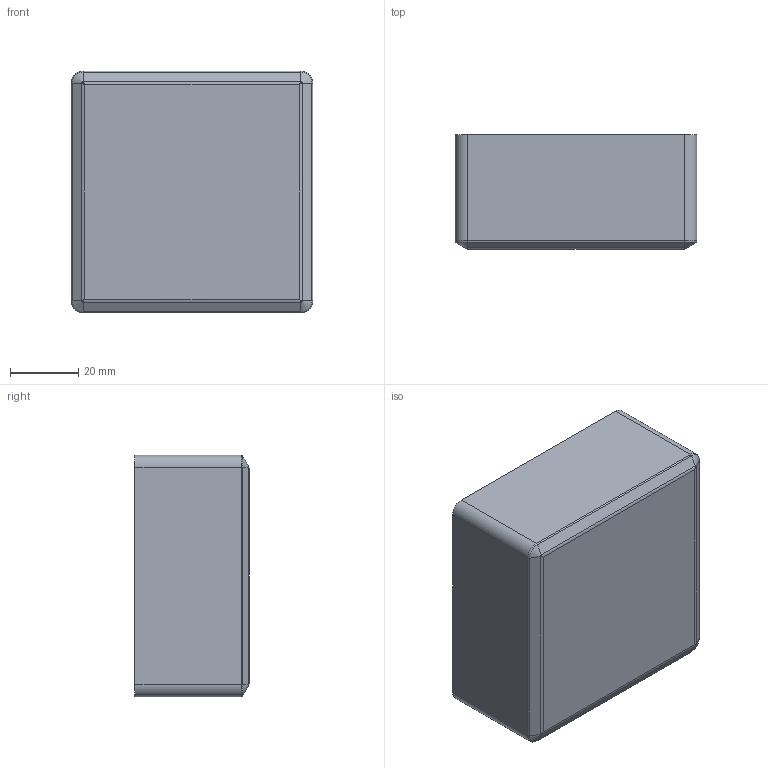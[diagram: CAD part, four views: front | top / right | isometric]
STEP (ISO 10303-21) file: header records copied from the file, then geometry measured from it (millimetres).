
FILE_DESCRIPTION (( 'STEP AP214' ), '1' );
FILE_NAME ('Cos PP117.STEP', '2018-04-12T09:44:27', ( 'aaa' ), ( '' ), 'SwSTEP 2.0', 'SolidWorks 2013', '' );
FILE_SCHEMA (( 'AUTOMOTIVE_DESIGN' ));
Length unit declared in the file: millimetre
Products named in the file (1): Cos PP117
Bounding box: 71 x 33.5 x 71 mm (x, y, z)
Volume: 26706.2 mm3; surface area: 28547.2 mm2
Topology: 1 solids, 1 shells, 87 faces, 184 edges, 108 vertices
Faces by surface type: cylinder 44, plane 27, torus 8, cone 4, bspline 4
Entity records: 3960 total; most frequent: CARTESIAN_POINT 2044, DIRECTION 424, ORIENTED_EDGE 360, EDGE_CURVE 180, AXIS2_PLACEMENT_3D 172, VERTEX_POINT 108, EDGE_LOOP 100, CIRCLE 88
